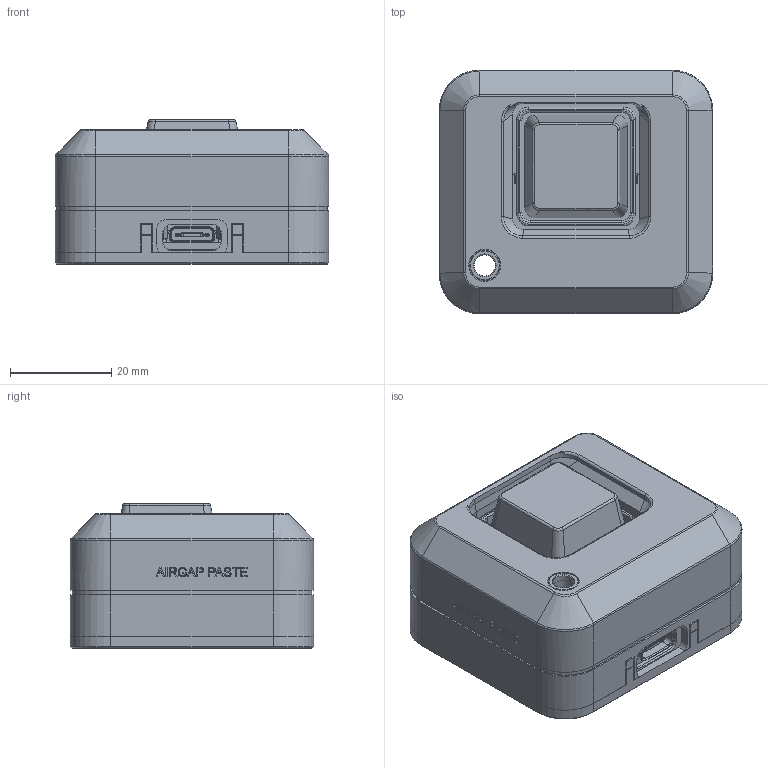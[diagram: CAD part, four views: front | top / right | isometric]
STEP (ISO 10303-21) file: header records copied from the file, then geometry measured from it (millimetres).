
FILE_DESCRIPTION(('Open CASCADE Model'),'2;1');
FILE_NAME('Open CASCADE Shape Model','2026-10-06T21:38:26',('Author'),( 'Open CASCADE'),'Open CASCADE STEP processor 7.9','Open CASCADE 7.9' ,'Unknown');
FILE_SCHEMA(('AUTOMOTIVE_DESIGN { 1 0 10303 214 1 1 1 1 }'));
Length unit declared in the file: millimetre
Products named in the file (13): AirGap_Paste_Pocket_Recess; 01_shell; 02_base; 03_keycap; 04_halo; 09_eye_bushing; 05_mx_plate; 07_xiao_wedge; 06_lightguide_left; 06_lightguide_right; XIAO_official_reference; Flat_FPC_antenna_envelope; MX_dimensional_envelope
Assembly tree (12 placements, depth 2):
  AirGap_Paste_Pocket_Recess
    01_shell
    02_base
    03_keycap
    04_halo
    09_eye_bushing
    05_mx_plate
    07_xiao_wedge
    06_lightguide_left
    06_lightguide_right
    XIAO_official_reference
    Flat_FPC_antenna_envelope
    MX_dimensional_envelope
Bounding box: 54 x 48 x 28.6 mm (x, y, z)
Volume: 30093.8 mm3; surface area: 34077 mm2
Topology: 49 solids, 54 shells, 1752 faces, 4522 edges, 2930 vertices
Faces by surface type: plane 1172, cylinder 312, bspline 109, extrusion 100, torus 30, cone 23, sphere 6
Full cylindrical faces by diameter (mm): 0.5 x3, 0.6 x2, 0.75 x14, 1.524 x8, 1.72 x1, 1.86 x1, 2 x2, 3.4 x6, 4.2 x3, 5.3 x1, 6 x1, 6.3 x1, 8.6 x1
Entity records: 115422 total; most frequent: CARTESIAN_POINT 26948, DIRECTION 15195, VECTOR 10334, LINE 10234, ORIENTED_EDGE 9028, PCURVE 9028, DEFINITIONAL_REPRESENTATION 9028, EDGE_CURVE 4514
